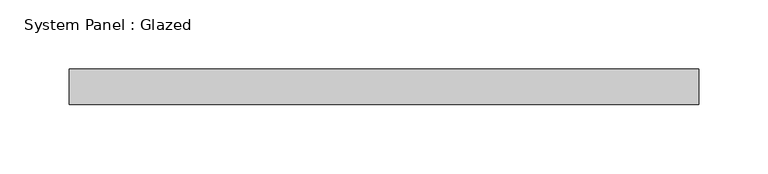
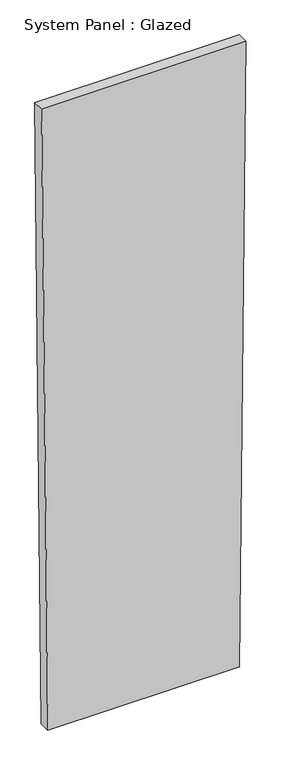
"""IFC4 building model written with IfcOpenShell, lengths in millimetres: plate geometry, System Panel : Glazed."""

from ifc_helpers import new_model, si_unit, frame, origin, place, context, project, spatial, polyline, outline, extrude, source, transform, mapped, element, save


def system_panel_glazed_53c58da0(model_context):
    return source(origin(), model_context, "Body", "SweptSolid", [
        extrude(outline(polyline([(0.0, -212.4786304), (0.0, 212.4786304), (1460.4286562, 226.6103852), (1460.4286562, -226.6103852), (0.0, -212.4786304)])), frame((0.0, -44.45, 0.0), z_axis=(0.0, 1.0, 0.0), x_axis=(0.0, 0.0, 1.0)), (0.0, 0.0, 1.0), 25.4),
    ])


if __name__ == "__main__":
    model = new_model("IFC4")
    model_context = context("Model", 3, world=origin())
    ifc_project = project(units=[si_unit("LENGTHUNIT", "METRE", prefix="MILLI")], contexts=[model_context])
    site = spatial("IfcSite", under=ifc_project)
    building = spatial("IfcBuilding", under=site)
    placement = place(None, origin())
    system_panel_glazed_shape = system_panel_glazed_53c58da0(model_context)
    element("IfcPlate", 1, ObjectType="System Panel : Glazed", at=placement, inside=building, context=model_context, shape_type="MappedRepresentation", body=[
        mapped(system_panel_glazed_shape, transform((0.0, 0.0, 0.0), x_axis=(1.0, 0.0, 0.0), y_axis=(0.0, 1.0, 0.0), z_axis=(0.0, 0.0, 1.0))),
    ])
    save(model, "model.ifc")
